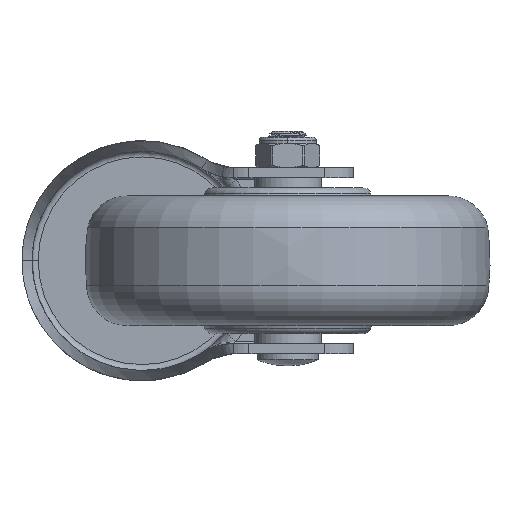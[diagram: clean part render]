
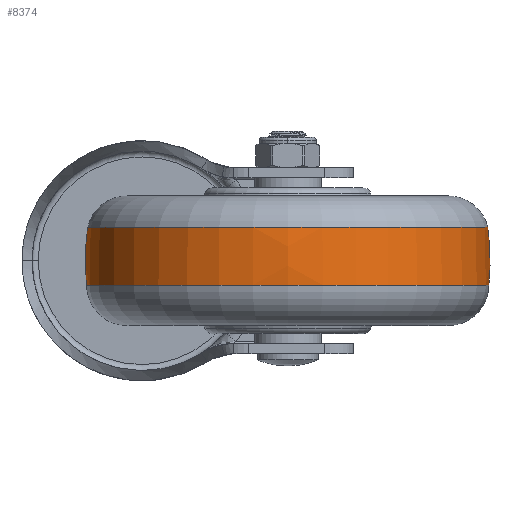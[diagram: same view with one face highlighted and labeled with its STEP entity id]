
A CAD part, front view. The second image highlights one B-rep face of the part: STEP entity #8374.
In plain terms, the highlighted free-form (B-spline) face has degree [3, 3] with [7, 4] control points.
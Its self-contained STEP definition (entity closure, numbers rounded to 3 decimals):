
#7759=CARTESIAN_POINT('',(-6.012,0.,0.));
#7760=DIRECTION('',(-1.,0.,0.));
#7761=DIRECTION('',(0.,1.,0.));
#7762=AXIS2_PLACEMENT_3D('',#7759,#7760,#7761);
#7774=CARTESIAN_POINT('',(0.,-11.437,0.));
#7775=DIRECTION('',(0.,0.,1.));
#7776=DIRECTION('',(0.135,0.991,0.));
#7777=AXIS2_PLACEMENT_3D('',#7774,#7775,#7776);
#7779=CARTESIAN_POINT('',(0.,11.437,0.));
#7780=DIRECTION('',(0.,0.,-1.));
#7781=DIRECTION('',(0.135,-0.991,0.));
#7782=AXIS2_PLACEMENT_3D('',#7779,#7780,#7781);
#7784=CARTESIAN_POINT('',(8.303,0.,0.));
#7785=DIRECTION('',(-1.,0.,0.));
#7786=DIRECTION('',(0.,1.,0.));
#7787=AXIS2_PLACEMENT_3D('',#7784,#7785,#7786);
#7999=CARTESIAN_POINT('',(-6.012,49.697,0.));
#8001=VERTEX_POINT('',#7999);
#8003=CARTESIAN_POINT('',(-6.012,-49.697,
0.));
#8005=VERTEX_POINT('',#8003);
#8032=CARTESIAN_POINT('',(8.303,49.428,0.));
#8034=VERTEX_POINT('',#8032);
#8036=CARTESIAN_POINT('',(8.303,-49.428,
0.));
#8038=VERTEX_POINT('',#8036);
#8338=CARTESIAN_POINT('',(-6.298,-49.57,
3.119));
#8339=CARTESIAN_POINT('',(-1.337,-50.08,
3.151));
#8340=CARTESIAN_POINT('',(3.649,-49.987,3.145));
#8341=CARTESIAN_POINT('',(8.587,-49.291,3.101));
#8342=CARTESIAN_POINT('',(-6.298,-51.489,
-27.387));
#8343=CARTESIAN_POINT('',(-1.337,-52.019,
-27.668));
#8344=CARTESIAN_POINT('',(3.649,-51.922,
-27.617));
#8345=CARTESIAN_POINT('',(8.587,-51.199,
-27.232));
#8346=CARTESIAN_POINT('',(-6.298,-30.566,
-49.668));
#8347=CARTESIAN_POINT('',(-1.337,-30.88,
-50.179));
#8348=CARTESIAN_POINT('',(3.649,-30.823,
-50.085));
#8349=CARTESIAN_POINT('',(8.587,-30.393,
-49.388));
#8350=CARTESIAN_POINT('',(-6.298,0.,-49.668));
#8351=CARTESIAN_POINT('',(-1.337,0.,-50.179));
#8352=CARTESIAN_POINT('',(3.649,0.,
-50.085));
#8353=CARTESIAN_POINT('',(8.587,0.,-49.388));
#8354=CARTESIAN_POINT('',(-6.298,30.566,
-49.668));
#8355=CARTESIAN_POINT('',(-1.337,30.88,
-50.179));
#8356=CARTESIAN_POINT('',(3.649,30.823,-50.085));
#8357=CARTESIAN_POINT('',(8.587,30.393,-49.388));
#8358=CARTESIAN_POINT('',(-6.298,51.489,
-27.387));
#8359=CARTESIAN_POINT('',(-1.337,52.019,
-27.668));
#8360=CARTESIAN_POINT('',(3.649,51.922,-27.617));
#8361=CARTESIAN_POINT('',(8.587,51.199,-27.232));
#8362=CARTESIAN_POINT('',(-6.298,49.57,3.119));
#8363=CARTESIAN_POINT('',(-1.337,50.08,3.151));
#8364=CARTESIAN_POINT('',(3.649,49.987,3.145));
#8365=CARTESIAN_POINT('',(8.587,49.291,3.101));
#8366=(BOUNDED_SURFACE()B_SPLINE_SURFACE(3,3,((#8338,#8339,#8340,#8341),(#8342,
#8343,#8344,#8345),(#8346,#8347,#8348,#8349),(#8350,#8351,#8352,#8353),(#8354,
#8355,#8356,#8357),(#8358,#8359,#8360,#8361),(#8362,#8363,#8364,#8365)),
.UNSPECIFIED.,.F.,.F.,.F.)B_SPLINE_SURFACE_WITH_KNOTS((4,3,4),(4,4),(0.,1.,
2.),(0.,1.),.UNSPECIFIED.)GEOMETRIC_REPRESENTATION_ITEM()RATIONAL_B_SPLINE_SURFACE(((1.192,1.186,1.186,1.192),(
0.941,0.936,0.936,0.941),(
0.941,0.936,0.936,0.941),(
1.192,1.186,1.186,1.192),(
0.941,0.936,0.936,0.941),(
0.941,0.936,0.936,0.941),(
1.192,1.186,1.186,1.192)))REPRESENTATION_ITEM('')SURFACE());
#8367=ORIENTED_EDGE('',*,*,#8328,.T.);
#8368=ORIENTED_EDGE('',*,*,#8281,.T.);
#8369=ORIENTED_EDGE('',*,*,#8332,.F.);
#8371=ORIENTED_EDGE('',*,*,#8370,.F.);
#8372=EDGE_LOOP('',(#8367,#8368,#8369,#8371));
#8373=FACE_OUTER_BOUND('',#8372,.F.);
#7763=CIRCLE('',#7762,49.697);
#7778=CIRCLE('',#7777,61.429);
#7783=CIRCLE('',#7782,61.429);
#7788=CIRCLE('',#7787,49.428);
#8281=EDGE_CURVE('',#8001,#8005,#7763,.T.);
#8328=EDGE_CURVE('',#8034,#8001,#7778,.T.);
#8332=EDGE_CURVE('',#8038,#8005,#7783,.T.);
#8370=EDGE_CURVE('',#8034,#8038,#7788,.T.);
#8374=ADVANCED_FACE('',(#8373),#8366,.T.);
